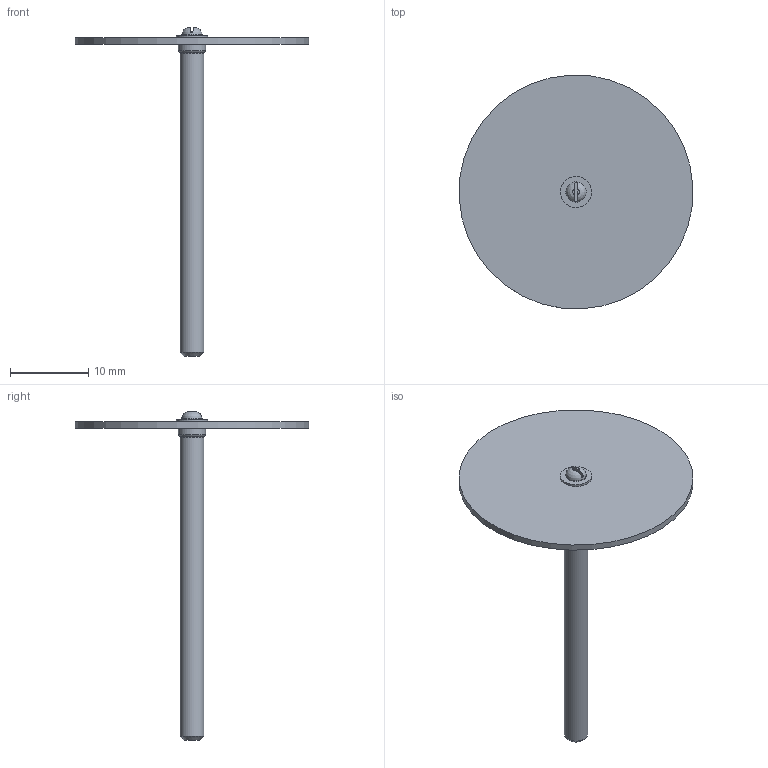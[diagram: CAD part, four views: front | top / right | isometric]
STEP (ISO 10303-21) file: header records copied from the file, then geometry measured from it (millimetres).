
FILE_DESCRIPTION(/* description */ (''),/* implementation_level */ '2;1');
FILE_NAME(/* name */ 'UF7330.stp',/* time_stamp */ '2026-08-10T11:51:50+03:00',/* author */ ('harel'),/* organization */ (''),/* preprocessor_version */ 'ST-DEVELOPER v20',/* originating_system */ 'Autodesk Inventor 2025',/* authorisation */ '');
FILE_SCHEMA (('AUTOMOTIVE_DESIGN { 1 0 10303 214 3 1 1 }'));
Length unit declared in the file: millimetre
Products named in the file (5): UF7313; Part5; disk; CNS 9671 - M1.4 x 4; ISO 7091 - ST 1.6 - 100 HV
Assembly tree (4 placements, depth 2):
  UF7313
    Part5
    disk
    CNS 9671 - M1.4 x 4
    ISO 7091 - ST 1.6 - 100 HV
Bounding box: 29.96 x 29.96 x 42.12 mm (x, y, z)
Volume: 855.8 mm3; surface area: 1959.8 mm2
Topology: 4 solids, 4 shells, 30 faces, 55 edges, 35 vertices
Faces by surface type: plane 12, cylinder 9, cone 4, torus 2, sphere 2, bspline 1
Full cylindrical faces by diameter (mm): 1.183 x1, 1.216 x1, 1.4 x1, 1.6 x1, 1.8 x1, 3 x1, 3.5 x1, 4 x1, 30 x1
Entity records: 1038 total; most frequent: CARTESIAN_POINT 194, DIRECTION 163, ORIENTED_EDGE 110, AXIS2_PLACEMENT_3D 74, EDGE_CURVE 55, EDGE_LOOP 36, CIRCLE 35, VERTEX_POINT 35
